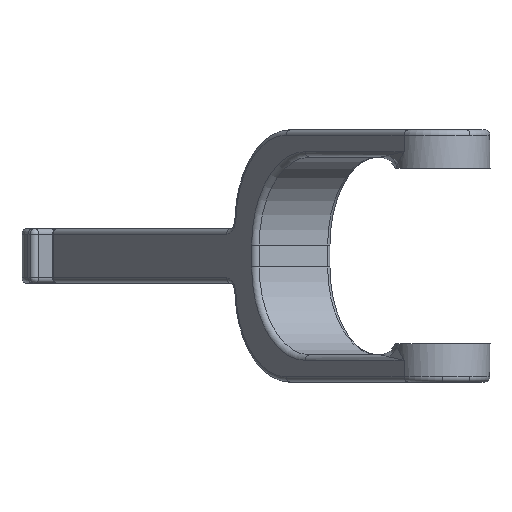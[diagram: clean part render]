
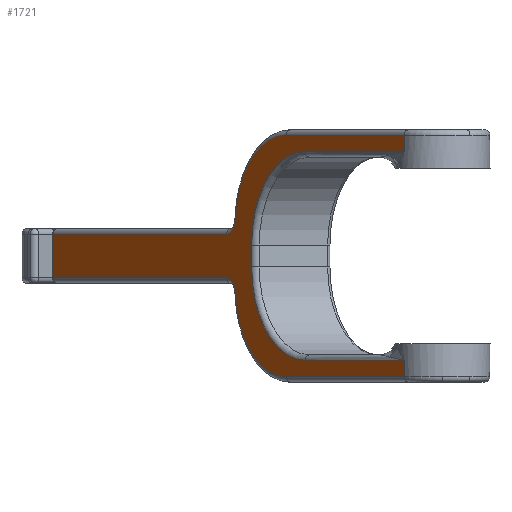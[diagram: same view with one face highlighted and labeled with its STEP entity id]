
A CAD part, front view. The second image highlights one B-rep face of the part: STEP entity #1721.
In plain terms, the highlighted planar face has unit normal (-0.819, -0.574, 0).
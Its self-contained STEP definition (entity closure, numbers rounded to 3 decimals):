
#36 = EDGE_LOOP ( 'NONE', ( #2191, #2197, #2196, #2198, #2199, #2200, #2194, #2232, #2219, #2137, #2218, #2184, #2217, #1984, #2215, #2233 ) ) ;
#364 = FACE_OUTER_BOUND ( 'NONE', #36, .T. ) ;
#368 = DIRECTION ( 'NONE',  ( 0.819, 0.574, 0. ) ) ;
#375 = DIRECTION ( 'NONE',  ( -0.574, 0.819, 0. ) ) ;
#403 = PLANE ( 'NONE',  #3009 ) ;
#404 = CARTESIAN_POINT ( 'NONE',  ( -17.001, 16.784, 2.5 ) ) ;
#443 = CARTESIAN_POINT ( 'NONE',  ( -0.075, -7.39, -3.421 ) ) ;
#499 = CARTESIAN_POINT ( 'NONE',  ( -16.715, 16.374, 2. ) ) ;
#502 = CARTESIAN_POINT ( 'NONE',  ( -16.715, 16.374, -2. ) ) ;
#519 = CARTESIAN_POINT ( 'NONE',  ( 6.228, -16.392, 9.5 ) ) ;
#520 = LINE ( 'NONE', #1024, #552 ) ;
#538 = CARTESIAN_POINT ( 'NONE',  ( 1.353, -9.429, -1. ) ) ;
#548 = CARTESIAN_POINT ( 'NONE',  ( 6.228, -16.392, -9.5 ) ) ;
#552 = VECTOR ( 'NONE', #1013, 1000. ) ;
#553 = CARTESIAN_POINT ( 'NONE',  ( -0.075, -7.39, 3.421 ) ) ;
#577 = CARTESIAN_POINT ( 'NONE',  ( 4.508, -13.935, -11. ) ) ;
#578 = CARTESIAN_POINT ( 'NONE',  ( 15.234, -29.253, -9.5 ) ) ;
#586 = CARTESIAN_POINT ( 'NONE',  ( -0.934, -6.163, 2. ) ) ;
#630 = CARTESIAN_POINT ( 'NONE',  ( 15.234, -29.253, 9.5 ) ) ;
#675 = CARTESIAN_POINT ( 'NONE',  ( 15.234, -29.253, -11. ) ) ;
#832 = LINE ( 'NONE', #1203, #833 ) ;
#833 = VECTOR ( 'NONE', #1216, 1000. ) ;
#852 = CIRCLE ( 'NONE', #3066, 8.5 ) ;
#856 = CIRCLE ( 'NONE', #3067, 1.5 ) ;
#877 = LINE ( 'NONE', #1359, #944 ) ;
#882 = LINE ( 'NONE', #1423, #1055 ) ;
#924 = CIRCLE ( 'NONE', #3083, 1.5 ) ;
#938 = LINE ( 'NONE', #1349, #946 ) ;
#944 = VECTOR ( 'NONE', #1342, 1000. ) ;
#946 = VECTOR ( 'NONE', #1348, 1000. ) ;
#950 = LINE ( 'NONE', #1343, #961 ) ;
#958 = CIRCLE ( 'NONE', #3099, 8.5 ) ;
#961 = VECTOR ( 'NONE', #1353, 1000. ) ;
#974 = LINE ( 'NONE', #1377, #1059 ) ;
#994 = VECTOR ( 'NONE', #1387, 1000. ) ;
#999 = LINE ( 'NONE', #1347, #994 ) ;
#1013 = DIRECTION ( 'NONE',  ( 0., 0., -1. ) ) ;
#1018 = LINE ( 'NONE', #1450, #1045 ) ;
#1024 = CARTESIAN_POINT ( 'NONE',  ( -16.715, 16.374, 2.5 ) ) ;
#1034 = LINE ( 'NONE', #1456, #1040 ) ;
#1040 = VECTOR ( 'NONE', #1431, 1000. ) ;
#1045 = VECTOR ( 'NONE', #1434, 1000. ) ;
#1055 = VECTOR ( 'NONE', #1415, 1000. ) ;
#1059 = VECTOR ( 'NONE', #1385, 1000. ) ;
#1062 = CIRCLE ( 'NONE', #3093, 8. ) ;
#1142 = CIRCLE ( 'NONE', #3130, 8. ) ;
#1203 = CARTESIAN_POINT ( 'NONE',  ( 1.353, -9.429, 2.5 ) ) ;
#1216 = DIRECTION ( 'NONE',  ( 0., 0., 1. ) ) ;
#1308 = CARTESIAN_POINT ( 'NONE',  ( 6.228, -16.392, -1. ) ) ;
#1311 = DIRECTION ( 'NONE',  ( 0.819, 0.574, 0. ) ) ;
#1313 = DIRECTION ( 'NONE',  ( -0.574, 0.819, 0. ) ) ;
#1342 = DIRECTION ( 'NONE',  ( 0.574, -0.819, 0. ) ) ;
#1343 = CARTESIAN_POINT ( 'NONE',  ( -17.001, 16.784, 2. ) ) ;
#1347 = CARTESIAN_POINT ( 'NONE',  ( -17.001, 16.784, 9.5 ) ) ;
#1348 = DIRECTION ( 'NONE',  ( 0., 0., 1. ) ) ;
#1349 = CARTESIAN_POINT ( 'NONE',  ( 15.234, -29.253, 2.5 ) ) ;
#1351 = CARTESIAN_POINT ( 'NONE',  ( -0.934, -6.163, 3.5 ) ) ;
#1353 = DIRECTION ( 'NONE',  ( -0.574, 0.819, 0. ) ) ;
#1359 = CARTESIAN_POINT ( 'NONE',  ( -17.001, 16.784, -2. ) ) ;
#1365 = CARTESIAN_POINT ( 'NONE',  ( -0.934, -6.163, -3.5 ) ) ;
#1366 = DIRECTION ( 'NONE',  ( 0.819, 0.574, 0. ) ) ;
#1368 = DIRECTION ( 'NONE',  ( -0.574, 0.819, 0. ) ) ;
#1375 = DIRECTION ( 'NONE',  ( -0.574, 0.819, 0. ) ) ;
#1376 = DIRECTION ( 'NONE',  ( 0.819, 0.574, 0. ) ) ;
#1377 = CARTESIAN_POINT ( 'NONE',  ( -17.001, 16.784, -9.5 ) ) ;
#1385 = DIRECTION ( 'NONE',  ( -0.574, 0.819, 0. ) ) ;
#1387 = DIRECTION ( 'NONE',  ( 0.574, -0.819, 0. ) ) ;
#1396 = CARTESIAN_POINT ( 'NONE',  ( 6.228, -16.392, 1. ) ) ;
#1415 = DIRECTION ( 'NONE',  ( 0.574, -0.819, 0. ) ) ;
#1420 = DIRECTION ( 'NONE',  ( -0.574, 0.819, 0. ) ) ;
#1422 = DIRECTION ( 'NONE',  ( 0.819, 0.574, 0. ) ) ;
#1423 = CARTESIAN_POINT ( 'NONE',  ( -17.001, 16.784, -11. ) ) ;
#1424 = CARTESIAN_POINT ( 'NONE',  ( 4.508, -13.935, 3. ) ) ;
#1428 = DIRECTION ( 'NONE',  ( -0.574, 0.819, 0. ) ) ;
#1431 = DIRECTION ( 'NONE',  ( -0.574, 0.819, 0. ) ) ;
#1434 = DIRECTION ( 'NONE',  ( 0., 0., 1. ) ) ;
#1441 = CARTESIAN_POINT ( 'NONE',  ( 4.508, -13.935, -3. ) ) ;
#1443 = DIRECTION ( 'NONE',  ( -0.819, -0.574, 0. ) ) ;
#1444 = DIRECTION ( 'NONE',  ( -0.574, 0.819, 0. ) ) ;
#1450 = CARTESIAN_POINT ( 'NONE',  ( 15.234, -29.253, 2.5 ) ) ;
#1452 = DIRECTION ( 'NONE',  ( -0.819, -0.574, 0. ) ) ;
#1456 = CARTESIAN_POINT ( 'NONE',  ( -17.001, 16.784, 11. ) ) ;
#1591 = CARTESIAN_POINT ( 'NONE',  ( 1.353, -9.429, 1. ) ) ;
#1592 = CARTESIAN_POINT ( 'NONE',  ( 15.234, -29.253, 11. ) ) ;
#1598 = CARTESIAN_POINT ( 'NONE',  ( 4.508, -13.935, 11. ) ) ;
#1602 = CARTESIAN_POINT ( 'NONE',  ( -0.934, -6.163, -2. ) ) ;
#1721 = ADVANCED_FACE ( 'NONE', ( #364 ), #403, .F. ) ;
#1984 = ORIENTED_EDGE ( 'NONE', *, *, #2840, .T. ) ;
#2137 = ORIENTED_EDGE ( 'NONE', *, *, #2812, .T. ) ;
#2184 = ORIENTED_EDGE ( 'NONE', *, *, #2835, .T. ) ;
#2191 = ORIENTED_EDGE ( 'NONE', *, *, #2828, .T. ) ;
#2194 = ORIENTED_EDGE ( 'NONE', *, *, #2821, .T. ) ;
#2196 = ORIENTED_EDGE ( 'NONE', *, *, #2851, .T. ) ;
#2197 = ORIENTED_EDGE ( 'NONE', *, *, #2825, .T. ) ;
#2198 = ORIENTED_EDGE ( 'NONE', *, *, #2849, .T. ) ;
#2199 = ORIENTED_EDGE ( 'NONE', *, *, #2859, .T. ) ;
#2200 = ORIENTED_EDGE ( 'NONE', *, *, #2811, .T. ) ;
#2215 = ORIENTED_EDGE ( 'NONE', *, *, #2798, .T. ) ;
#2217 = ORIENTED_EDGE ( 'NONE', *, *, #2820, .T. ) ;
#2218 = ORIENTED_EDGE ( 'NONE', *, *, #2856, .T. ) ;
#2219 = ORIENTED_EDGE ( 'NONE', *, *, #2810, .T. ) ;
#2232 = ORIENTED_EDGE ( 'NONE', *, *, #2711, .T. ) ;
#2233 = ORIENTED_EDGE ( 'NONE', *, *, #2758, .T. ) ;
#2532 = VERTEX_POINT ( 'NONE', #553 ) ;
#2533 = VERTEX_POINT ( 'NONE', #577 ) ;
#2534 = VERTEX_POINT ( 'NONE', #578 ) ;
#2535 = VERTEX_POINT ( 'NONE', #586 ) ;
#2536 = VERTEX_POINT ( 'NONE', #443 ) ;
#2539 = VERTEX_POINT ( 'NONE', #548 ) ;
#2540 = VERTEX_POINT ( 'NONE', #519 ) ;
#2547 = VERTEX_POINT ( 'NONE', #538 ) ;
#2563 = VERTEX_POINT ( 'NONE', #499 ) ;
#2576 = VERTEX_POINT ( 'NONE', #502 ) ;
#2593 = VERTEX_POINT ( 'NONE', #675 ) ;
#2644 = VERTEX_POINT ( 'NONE', #630 ) ;
#2711 = EDGE_CURVE ( 'NONE', #2563, #2576, #520, .T. ) ;
#2758 = EDGE_CURVE ( 'NONE', #2547, #3203, #832, .T. ) ;
#2798 = EDGE_CURVE ( 'NONE', #2539, #2547, #852, .T. ) ;
#2810 = EDGE_CURVE ( 'NONE', #2576, #3208, #877, .T. ) ;
#2811 = EDGE_CURVE ( 'NONE', #2532, #2535, #856, .T. ) ;
#2812 = EDGE_CURVE ( 'NONE', #3208, #2536, #924, .T. ) ;
#2820 = EDGE_CURVE ( 'NONE', #2593, #2534, #938, .T. ) ;
#2821 = EDGE_CURVE ( 'NONE', #2535, #2563, #950, .T. ) ;
#2825 = EDGE_CURVE ( 'NONE', #2540, #2644, #999, .T. ) ;
#2828 = EDGE_CURVE ( 'NONE', #3203, #2540, #958, .T. ) ;
#2835 = EDGE_CURVE ( 'NONE', #2533, #2593, #882, .T. ) ;
#2840 = EDGE_CURVE ( 'NONE', #2534, #2539, #974, .T. ) ;
#2849 = EDGE_CURVE ( 'NONE', #3209, #3161, #1034, .T. ) ;
#2851 = EDGE_CURVE ( 'NONE', #2644, #3209, #1018, .T. ) ;
#2856 = EDGE_CURVE ( 'NONE', #2536, #2533, #1142, .T. ) ;
#2859 = EDGE_CURVE ( 'NONE', #3161, #2532, #1062, .T. ) ;
#3009 = AXIS2_PLACEMENT_3D ( 'NONE', #404, #368, #375 ) ;
#3066 = AXIS2_PLACEMENT_3D ( 'NONE', #1308, #1311, #1313 ) ;
#3067 = AXIS2_PLACEMENT_3D ( 'NONE', #1351, #1376, #1375 ) ;
#3083 = AXIS2_PLACEMENT_3D ( 'NONE', #1365, #1366, #1368 ) ;
#3093 = AXIS2_PLACEMENT_3D ( 'NONE', #1424, #1443, #1444 ) ;
#3099 = AXIS2_PLACEMENT_3D ( 'NONE', #1396, #1422, #1420 ) ;
#3130 = AXIS2_PLACEMENT_3D ( 'NONE', #1441, #1452, #1428 ) ;
#3161 = VERTEX_POINT ( 'NONE', #1598 ) ;
#3203 = VERTEX_POINT ( 'NONE', #1591 ) ;
#3208 = VERTEX_POINT ( 'NONE', #1602 ) ;
#3209 = VERTEX_POINT ( 'NONE', #1592 ) ;
